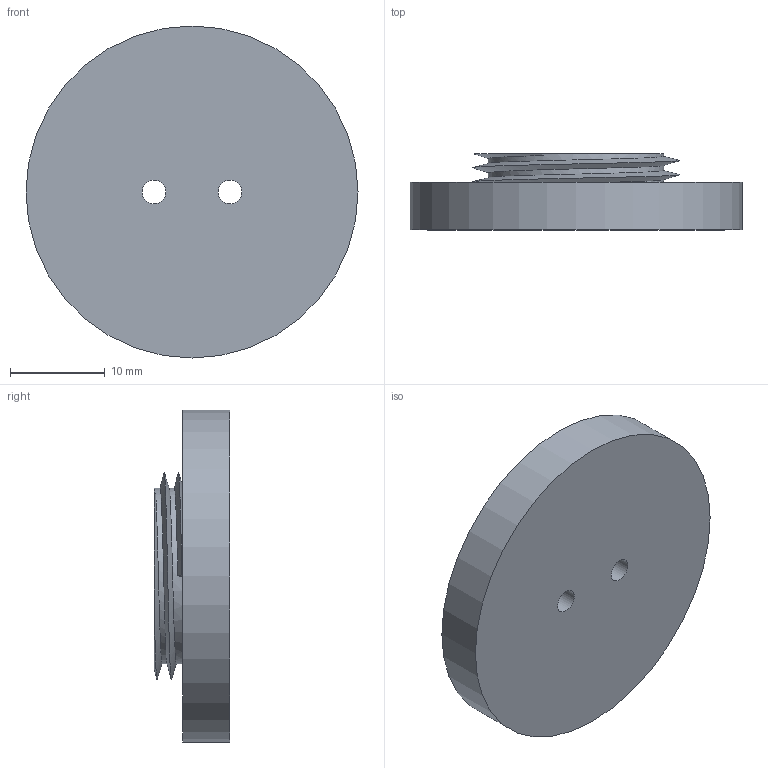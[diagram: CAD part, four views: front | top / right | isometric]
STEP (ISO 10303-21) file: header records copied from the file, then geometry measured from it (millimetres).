
FILE_DESCRIPTION(/* description */ (''),/* implementation_level */ '2;1');
FILE_NAME(/* name */ 'EX2HMP_IMS_mounting_disk.step',/* time_stamp */ '2025-06-05T17:30:23-04:00',/* author */ (''),/* organization */ (''),/* preprocessor_version */ 'ST-DEVELOPER v20.1',/* originating_system */ 'Autodesk Translation Framework v14.10.0.0',/* authorisation */ '');
FILE_SCHEMA (('AUTOMOTIVE_DESIGN { 1 0 10303 214 3 1 1 }'));
Length unit declared in the file: millimetre
Products named in the file (1): 444
Bounding box: 35 x 8 x 35 mm (x, y, z)
Volume: 4939.7 mm3; surface area: 3203.2 mm2
Topology: 1 solids, 1 shells, 15 faces, 33 edges, 22 vertices
Faces by surface type: cylinder 7, plane 6, bspline 2
Full cylindrical faces by diameter (mm): 2.5 x2, 17.5 x1, 18.5 x1, 35 x1
Entity records: 1105 total; most frequent: CARTESIAN_POINT 747, ORIENTED_EDGE 66, DIRECTION 60, EDGE_CURVE 33, AXIS2_PLACEMENT_3D 25, VERTEX_POINT 22, EDGE_LOOP 21, FACE_OUTER_BOUND 15
